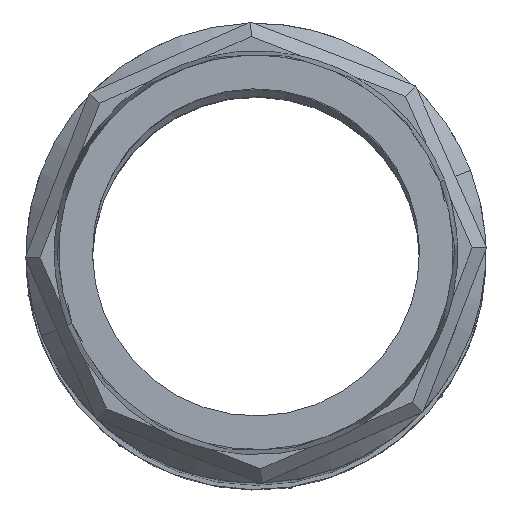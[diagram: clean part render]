
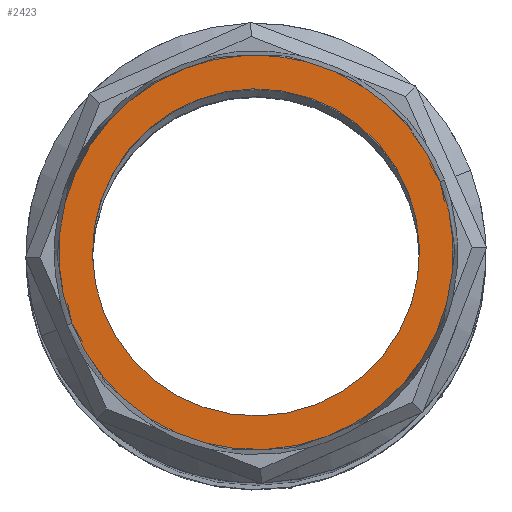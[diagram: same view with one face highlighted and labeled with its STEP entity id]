
A CAD part, top view. The second image highlights one B-rep face of the part: STEP entity #2423.
In plain terms, the highlighted planar face has unit normal (0, 0, 1).
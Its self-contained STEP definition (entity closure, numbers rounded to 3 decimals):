
#24 = CARTESIAN_POINT ( 'NONE',  ( 0., 0., 660. ) ) ;
#25 = DIRECTION ( 'NONE',  ( 0., 0., 1. ) ) ;
#26 = DIRECTION ( 'NONE',  ( 0.933, 0.36, 0. ) ) ;
#389 = CIRCLE ( 'NONE', #390, 24.3 ) ;
#390 = AXIS2_PLACEMENT_3D ( 'NONE', #24, #25, #26 ) ;
#498 = CARTESIAN_POINT ( 'NONE',  ( -27.337, -10.544, 660. ) ) ;
#541 = CARTESIAN_POINT ( 'NONE',  ( -22.672, -8.744, 660. ) ) ;
#543 = CARTESIAN_POINT ( 'NONE',  ( 22.672, 8.744, 660. ) ) ;
#547 = CARTESIAN_POINT ( 'NONE',  ( 27.337, 10.544, 660. ) ) ;
#575 = CARTESIAN_POINT ( 'NONE',  ( 0., 0., 660. ) ) ;
#582 = FACE_OUTER_BOUND ( 'NONE', #2330, .T. ) ;
#586 = FACE_BOUND ( 'NONE', #2329, .T. ) ;
#587 = PLANE ( 'NONE',  #912 ) ;
#589 = DIRECTION ( 'NONE',  ( 0., 0., 1. ) ) ;
#590 = DIRECTION ( 'NONE',  ( 0.933, 0.36, 0. ) ) ;
#868 = CIRCLE ( 'NONE', #871, 24.3 ) ;
#871 = AXIS2_PLACEMENT_3D ( 'NONE', #1559, #1560, #1561 ) ;
#912 = AXIS2_PLACEMENT_3D ( 'NONE', #575, #589, #590 ) ;
#996 = B_SPLINE_CURVE_WITH_KNOTS ( 'NONE', 3,
 ( #1207, #1202, #1203, #1208, #1209, #1210, #1211, #1212, #1213, #1214, #1215, #1216, #1217, #1218, #1219, #1220, #1221, #1222, #1223, #1224, #1225, #1226, #1227, #1228, #1229, #1230, #1231, #1232, #1233, #1234, #1235, #1236, #1237, #1238, #1239, #1240 ),
 .UNSPECIFIED., .F., .F.,
 ( 4, 2, 2, 2, 2, 2, 2, 2, 2, 2, 2, 2, 2, 2, 2, 2, 2, 4 ),
 ( 0., 0.016, 0.031, 0.062, 0.094, 0.125, 0.156, 0.187, 0.219, 0.25, 0.281, 0.312, 0.344, 0.375, 0.406, 0.437, 0.469, 0.5 ),
 .UNSPECIFIED. ) ;
#1202 = CARTESIAN_POINT ( 'NONE',  ( 26.992, 11.439, 660. ) ) ;
#1203 = CARTESIAN_POINT ( 'NONE',  ( 26.603, 12.316, 660. ) ) ;
#1207 = CARTESIAN_POINT ( 'NONE',  ( 27.337, 10.544, 660. ) ) ;
#1208 = CARTESIAN_POINT ( 'NONE',  ( 25.741, 14.028, 660. ) ) ;
#1209 = CARTESIAN_POINT ( 'NONE',  ( 25.268, 14.864, 660. ) ) ;
#1210 = CARTESIAN_POINT ( 'NONE',  ( 23.73, 17.293, 660. ) ) ;
#1211 = CARTESIAN_POINT ( 'NONE',  ( 22.543, 18.814, 660. ) ) ;
#1212 = CARTESIAN_POINT ( 'NONE',  ( 19.9, 21.591, 660. ) ) ;
#1213 = CARTESIAN_POINT ( 'NONE',  ( 18.439, 22.851, 660. ) ) ;
#1214 = CARTESIAN_POINT ( 'NONE',  ( 15.306, 25.058, 660. ) ) ;
#1215 = CARTESIAN_POINT ( 'NONE',  ( 13.627, 26.009, 660. ) ) ;
#1216 = CARTESIAN_POINT ( 'NONE',  ( 10.123, 27.563, 660. ) ) ;
#1217 = CARTESIAN_POINT ( 'NONE',  ( 8.291, 28.168, 660. ) ) ;
#1218 = CARTESIAN_POINT ( 'NONE',  ( 4.551, 29.008, 660. ) ) ;
#1219 = CARTESIAN_POINT ( 'NONE',  ( 2.637, 29.244, 660. ) ) ;
#1220 = CARTESIAN_POINT ( 'NONE',  ( -1.195, 29.338, 660. ) ) ;
#1221 = CARTESIAN_POINT ( 'NONE',  ( -3.119, 29.196, 660. ) ) ;
#1222 = CARTESIAN_POINT ( 'NONE',  ( -6.896, 28.541, 660. ) ) ;
#1223 = CARTESIAN_POINT ( 'NONE',  ( -8.755, 28.027, 660. ) ) ;
#1224 = CARTESIAN_POINT ( 'NONE',  ( -12.332, 26.648, 660. ) ) ;
#1225 = CARTESIAN_POINT ( 'NONE',  ( -14.055, 25.78, 660. ) ) ;
#1226 = CARTESIAN_POINT ( 'NONE',  ( -17.293, 23.73, 660. ) ) ;
#1227 = CARTESIAN_POINT ( 'NONE',  ( -18.814, 22.543, 660. ) ) ;
#1228 = CARTESIAN_POINT ( 'NONE',  ( -21.591, 19.9, 660. ) ) ;
#1229 = CARTESIAN_POINT ( 'NONE',  ( -22.851, 18.439, 660. ) ) ;
#1230 = CARTESIAN_POINT ( 'NONE',  ( -25.058, 15.306, 660. ) ) ;
#1231 = CARTESIAN_POINT ( 'NONE',  ( -26.009, 13.627, 660. ) ) ;
#1232 = CARTESIAN_POINT ( 'NONE',  ( -27.563, 10.123, 660. ) ) ;
#1233 = CARTESIAN_POINT ( 'NONE',  ( -28.168, 8.291, 660. ) ) ;
#1234 = CARTESIAN_POINT ( 'NONE',  ( -29.008, 4.551, 660. ) ) ;
#1235 = CARTESIAN_POINT ( 'NONE',  ( -29.244, 2.637, 660. ) ) ;
#1236 = CARTESIAN_POINT ( 'NONE',  ( -29.338, -1.195, 660. ) ) ;
#1237 = CARTESIAN_POINT ( 'NONE',  ( -29.196, -3.119, 660. ) ) ;
#1238 = CARTESIAN_POINT ( 'NONE',  ( -28.541, -6.896, 660. ) ) ;
#1239 = CARTESIAN_POINT ( 'NONE',  ( -28.027, -8.755, 660. ) ) ;
#1240 = CARTESIAN_POINT ( 'NONE',  ( -27.337, -10.544, 660. ) ) ;
#1559 = CARTESIAN_POINT ( 'NONE',  ( 0., 0., 660. ) ) ;
#1560 = DIRECTION ( 'NONE',  ( 0., 0., 1. ) ) ;
#1561 = DIRECTION ( 'NONE',  ( 0.933, 0.36, 0. ) ) ;
#1634 = CARTESIAN_POINT ( 'NONE',  ( -27.337, -10.544, 660. ) ) ;
#1635 = CARTESIAN_POINT ( 'NONE',  ( -26.648, -12.332, 660. ) ) ;
#1642 = CARTESIAN_POINT ( 'NONE',  ( -25.78, -14.055, 660. ) ) ;
#1643 = CARTESIAN_POINT ( 'NONE',  ( -23.73, -17.293, 660. ) ) ;
#1644 = CARTESIAN_POINT ( 'NONE',  ( -22.543, -18.814, 660. ) ) ;
#1645 = CARTESIAN_POINT ( 'NONE',  ( -19.9, -21.591, 660. ) ) ;
#1646 = CARTESIAN_POINT ( 'NONE',  ( -18.439, -22.851, 660. ) ) ;
#1647 = CARTESIAN_POINT ( 'NONE',  ( -15.306, -25.058, 660. ) ) ;
#1648 = CARTESIAN_POINT ( 'NONE',  ( -13.627, -26.009, 660. ) ) ;
#1649 = CARTESIAN_POINT ( 'NONE',  ( -10.123, -27.563, 660. ) ) ;
#1650 = CARTESIAN_POINT ( 'NONE',  ( -8.291, -28.168, 660. ) ) ;
#1651 = CARTESIAN_POINT ( 'NONE',  ( -4.551, -29.008, 660. ) ) ;
#1652 = CARTESIAN_POINT ( 'NONE',  ( -2.637, -29.244, 660. ) ) ;
#1653 = CARTESIAN_POINT ( 'NONE',  ( 1.195, -29.338, 660. ) ) ;
#1654 = CARTESIAN_POINT ( 'NONE',  ( 3.119, -29.196, 660. ) ) ;
#1655 = CARTESIAN_POINT ( 'NONE',  ( 6.896, -28.541, 660. ) ) ;
#1656 = CARTESIAN_POINT ( 'NONE',  ( 8.755, -28.027, 660. ) ) ;
#1657 = CARTESIAN_POINT ( 'NONE',  ( 12.332, -26.648, 660. ) ) ;
#1658 = CARTESIAN_POINT ( 'NONE',  ( 14.055, -25.78, 660. ) ) ;
#1659 = CARTESIAN_POINT ( 'NONE',  ( 17.293, -23.73, 660. ) ) ;
#1660 = CARTESIAN_POINT ( 'NONE',  ( 18.814, -22.543, 660. ) ) ;
#1661 = CARTESIAN_POINT ( 'NONE',  ( 21.591, -19.9, 660. ) ) ;
#1662 = CARTESIAN_POINT ( 'NONE',  ( 22.851, -18.439, 660. ) ) ;
#1663 = CARTESIAN_POINT ( 'NONE',  ( 25.058, -15.306, 660. ) ) ;
#1664 = CARTESIAN_POINT ( 'NONE',  ( 26.009, -13.627, 660. ) ) ;
#1665 = CARTESIAN_POINT ( 'NONE',  ( 27.563, -10.123, 660. ) ) ;
#1666 = CARTESIAN_POINT ( 'NONE',  ( 28.168, -8.291, 660. ) ) ;
#1667 = CARTESIAN_POINT ( 'NONE',  ( 29.008, -4.551, 660. ) ) ;
#1668 = CARTESIAN_POINT ( 'NONE',  ( 29.244, -2.637, 660. ) ) ;
#1669 = CARTESIAN_POINT ( 'NONE',  ( 29.338, 1.195, 660. ) ) ;
#1670 = CARTESIAN_POINT ( 'NONE',  ( 29.196, 3.119, 660. ) ) ;
#1671 = CARTESIAN_POINT ( 'NONE',  ( 28.541, 6.896, 660. ) ) ;
#1672 = CARTESIAN_POINT ( 'NONE',  ( 28.027, 8.756, 660. ) ) ;
#1673 = CARTESIAN_POINT ( 'NONE',  ( 27.337, 10.544, 660. ) ) ;
#1722 = EDGE_CURVE ( 'NONE', #2389, #2391, #389, .T. ) ;
#1773 = EDGE_CURVE ( 'NONE', #2395, #2346, #996, .T. ) ;
#1835 = EDGE_CURVE ( 'NONE', #2391, #2389, #868, .T. ) ;
#1860 = EDGE_CURVE ( 'NONE', #2346, #2395, #3371, .T. ) ;
#2329 = EDGE_LOOP ( 'NONE', ( #3300, #3301 ) ) ;
#2330 = EDGE_LOOP ( 'NONE', ( #3302, #3303 ) ) ;
#2346 = VERTEX_POINT ( 'NONE', #498 ) ;
#2389 = VERTEX_POINT ( 'NONE', #541 ) ;
#2391 = VERTEX_POINT ( 'NONE', #543 ) ;
#2395 = VERTEX_POINT ( 'NONE', #547 ) ;
#2423 = ADVANCED_FACE ( 'NONE', ( #586, #582 ), #587, .T. ) ;
#3300 = ORIENTED_EDGE ( 'NONE', *, *, #1835, .F. ) ;
#3301 = ORIENTED_EDGE ( 'NONE', *, *, #1722, .F. ) ;
#3302 = ORIENTED_EDGE ( 'NONE', *, *, #1860, .T. ) ;
#3303 = ORIENTED_EDGE ( 'NONE', *, *, #1773, .T. ) ;
#3371 = B_SPLINE_CURVE_WITH_KNOTS ( 'NONE', 3,
 ( #1634, #1635, #1642, #1643, #1644, #1645, #1646, #1647, #1648, #1649, #1650, #1651, #1652, #1653, #1654, #1655, #1656, #1657, #1658, #1659, #1660, #1661, #1662, #1663, #1664, #1665, #1666, #1667, #1668, #1669, #1670, #1671, #1672, #1673 ),
 .UNSPECIFIED., .F., .F.,
 ( 4, 2, 2, 2, 2, 2, 2, 2, 2, 2, 2, 2, 2, 2, 2, 2, 4 ),
 ( 0.5, 0.531, 0.563, 0.594, 0.625, 0.656, 0.688, 0.719, 0.75, 0.781, 0.812, 0.844, 0.875, 0.906, 0.938, 0.969, 1. ),
 .UNSPECIFIED. ) ;
